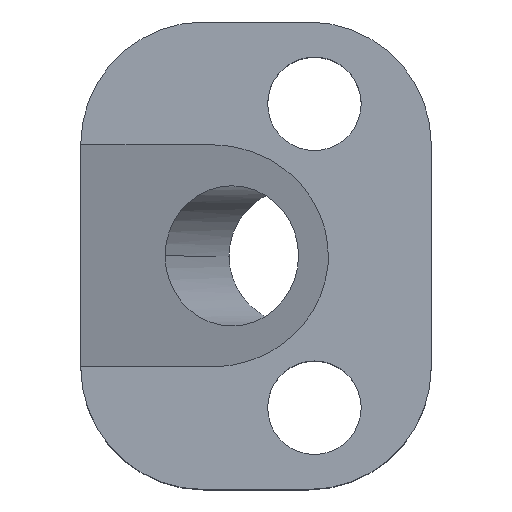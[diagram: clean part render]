
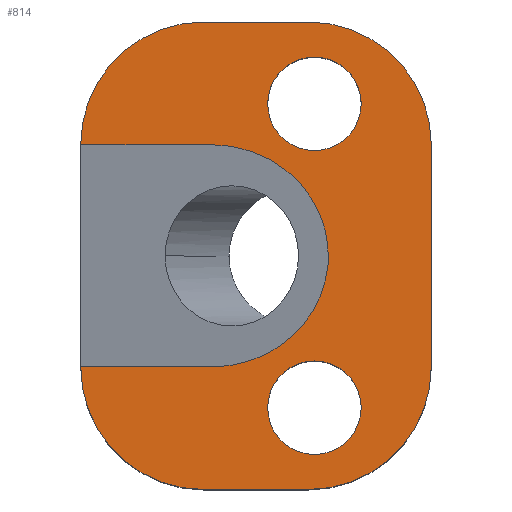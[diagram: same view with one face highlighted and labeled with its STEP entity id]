
A CAD part, top view. The second image highlights one B-rep face of the part: STEP entity #814.
In plain terms, the highlighted planar face has unit normal (0, 0, 1).
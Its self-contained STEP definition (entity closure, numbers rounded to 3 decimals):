
#7 = CIRCLE ( 'NONE', #209, 10.5 ) ;
#8 = DIRECTION ( 'NONE',  ( 1., 0., 0. ) ) ;
#13 = ORIENTED_EDGE ( 'NONE', *, *, #179, .T. ) ;
#18 = DIRECTION ( 'NONE',  ( 0., 0., 1. ) ) ;
#21 = DIRECTION ( 'NONE',  ( 1., 0., 0. ) ) ;
#48 = CIRCLE ( 'NONE', #536, 4. ) ;
#64 = CARTESIAN_POINT ( 'NONE',  ( 0.5, 9.5, 24. ) ) ;
#67 = CARTESIAN_POINT ( 'NONE',  ( 1., -13., 24. ) ) ;
#71 = CIRCLE ( 'NONE', #622, 4. ) ;
#77 = ORIENTED_EDGE ( 'NONE', *, *, #204, .F. ) ;
#79 = CARTESIAN_POINT ( 'NONE',  ( 0.5, 20., 24. ) ) ;
#83 = CARTESIAN_POINT ( 'NONE',  ( -7.798, -9.5, 24. ) ) ;
#88 = DIRECTION ( 'NONE',  ( 0., 0., -1. ) ) ;
#90 = FACE_OUTER_BOUND ( 'NONE', #566, .T. ) ;
#92 = ORIENTED_EDGE ( 'NONE', *, *, #923, .F. ) ;
#95 = CARTESIAN_POINT ( 'NONE',  ( -7.798, 9.5, 24. ) ) ;
#96 = VERTEX_POINT ( 'NONE', #452 ) ;
#111 = VERTEX_POINT ( 'NONE', #783 ) ;
#112 = EDGE_CURVE ( 'NONE', #96, #900, #595, .T. ) ;
#119 = ORIENTED_EDGE ( 'NONE', *, *, #677, .F. ) ;
#131 = CARTESIAN_POINT ( 'NONE',  ( 0.5, -20., 24. ) ) ;
#134 = CARTESIAN_POINT ( 'NONE',  ( -3., 13., 24. ) ) ;
#148 = EDGE_CURVE ( 'NONE', #900, #219, #765, .T. ) ;
#154 = CIRCLE ( 'NONE', #763, 10.5 ) ;
#155 = CARTESIAN_POINT ( 'NONE',  ( 12.18, -9.5, 24. ) ) ;
#173 = VERTEX_POINT ( 'NONE', #567 ) ;
#179 = EDGE_CURVE ( 'NONE', #219, #192, #902, .T. ) ;
#190 = EDGE_CURVE ( 'NONE', #316, #192, #154, .T. ) ;
#191 = CARTESIAN_POINT ( 'NONE',  ( -8.5, 9.5, 24. ) ) ;
#192 = VERTEX_POINT ( 'NONE', #711 ) ;
#195 = DIRECTION ( 'NONE',  ( 0., 0., -1. ) ) ;
#198 = DIRECTION ( 'NONE',  ( -1., 0., 0. ) ) ;
#202 = DIRECTION ( 'NONE',  ( 0., 0., 1. ) ) ;
#204 = EDGE_CURVE ( 'NONE', #510, #316, #924, .T. ) ;
#206 = CARTESIAN_POINT ( 'NONE',  ( 12.18, 9.5, 24. ) ) ;
#209 = AXIS2_PLACEMENT_3D ( 'NONE', #191, #195, #198 ) ;
#213 = DIRECTION ( 'NONE',  ( 0., 1., 0. ) ) ;
#219 = VERTEX_POINT ( 'NONE', #83 ) ;
#225 = CARTESIAN_POINT ( 'NONE',  ( 11., -9.5, 24. ) ) ;
#240 = EDGE_CURVE ( 'NONE', #913, #510, #885, .T. ) ;
#243 = ORIENTED_EDGE ( 'NONE', *, *, #502, .F. ) ;
#247 = ORIENTED_EDGE ( 'NONE', *, *, #360, .F. ) ;
#250 = DIRECTION ( 'NONE',  ( 1., 0., 0. ) ) ;
#267 = EDGE_CURVE ( 'NONE', #475, #913, #681, .T. ) ;
#282 = CARTESIAN_POINT ( 'NONE',  ( -7.798, 9.5, 24. ) ) ;
#286 = EDGE_CURVE ( 'NONE', #825, #475, #292, .T. ) ;
#292 = CIRCLE ( 'NONE', #653, 10.5 ) ;
#294 = FACE_BOUND ( 'NONE', #884, .T. ) ;
#298 = CARTESIAN_POINT ( 'NONE',  ( 1., -13., 24. ) ) ;
#304 = DIRECTION ( 'NONE',  ( 0., 0., 1. ) ) ;
#308 = DIRECTION ( 'NONE',  ( 1., 0., 0. ) ) ;
#315 = PLANE ( 'NONE',  #553 ) ;
#316 = VERTEX_POINT ( 'NONE', #813 ) ;
#330 = EDGE_CURVE ( 'NONE', #618, #825, #630, .T. ) ;
#332 = DIRECTION ( 'NONE',  ( 0., 0., 1. ) ) ;
#340 = CARTESIAN_POINT ( 'NONE',  ( -19., -20., 24. ) ) ;
#345 = EDGE_CURVE ( 'NONE', #111, #173, #71, .T. ) ;
#360 = EDGE_CURVE ( 'NONE', #801, #594, #451, .T. ) ;
#377 = DIRECTION ( 'NONE',  ( 1., 0., 0. ) ) ;
#418 = AXIS2_PLACEMENT_3D ( 'NONE', #673, #680, #831 ) ;
#420 = CARTESIAN_POINT ( 'NONE',  ( 0.5, -9.5, 24. ) ) ;
#425 = DIRECTION ( 'NONE',  ( 1., 0., 0. ) ) ;
#431 = ORIENTED_EDGE ( 'NONE', *, *, #148, .T. ) ;
#433 = CARTESIAN_POINT ( 'NONE',  ( -8.5, 20., 24. ) ) ;
#438 = CARTESIAN_POINT ( 'NONE',  ( -7.798, -9.5, 24. ) ) ;
#443 = DIRECTION ( 'NONE',  ( 0., 0., -1. ) ) ;
#451 = CIRCLE ( 'NONE', #574, 4. ) ;
#452 = CARTESIAN_POINT ( 'NONE',  ( -19., 9.5, 24. ) ) ;
#464 = ORIENTED_EDGE ( 'NONE', *, *, #286, .F. ) ;
#475 = VERTEX_POINT ( 'NONE', #904 ) ;
#502 = EDGE_CURVE ( 'NONE', #594, #801, #626, .T. ) ;
#510 = VERTEX_POINT ( 'NONE', #131 ) ;
#523 = ORIENTED_EDGE ( 'NONE', *, *, #267, .F. ) ;
#535 = CARTESIAN_POINT ( 'NONE',  ( 1., 13., 24. ) ) ;
#536 = AXIS2_PLACEMENT_3D ( 'NONE', #298, #304, #308 ) ;
#552 = CARTESIAN_POINT ( 'NONE',  ( -8.5, 20., 24. ) ) ;
#553 = AXIS2_PLACEMENT_3D ( 'NONE', #340, #18, #21 ) ;
#554 = VECTOR ( 'NONE', #893, 1000. ) ;
#566 = EDGE_LOOP ( 'NONE', ( #119, #785, #431, #13, #914, #77, #605, #523, #464, #712 ) ) ;
#567 = CARTESIAN_POINT ( 'NONE',  ( -3., -13., 24. ) ) ;
#570 = EDGE_LOOP ( 'NONE', ( #247, #243 ) ) ;
#573 = CARTESIAN_POINT ( 'NONE',  ( -19., 9.5, 24. ) ) ;
#574 = AXIS2_PLACEMENT_3D ( 'NONE', #535, #202, #377 ) ;
#594 = VERTEX_POINT ( 'NONE', #134 ) ;
#595 = LINE ( 'NONE', #573, #731 ) ;
#605 = ORIENTED_EDGE ( 'NONE', *, *, #240, .F. ) ;
#618 = VERTEX_POINT ( 'NONE', #552 ) ;
#622 = AXIS2_PLACEMENT_3D ( 'NONE', #67, #332, #250 ) ;
#626 = CIRCLE ( 'NONE', #418, 4. ) ;
#630 = LINE ( 'NONE', #433, #842 ) ;
#635 = ORIENTED_EDGE ( 'NONE', *, *, #345, .F. ) ;
#644 = DIRECTION ( 'NONE',  ( 1., 0., 0. ) ) ;
#651 = CARTESIAN_POINT ( 'NONE',  ( -19., -9.5, 24. ) ) ;
#653 = AXIS2_PLACEMENT_3D ( 'NONE', #64, #88, #213 ) ;
#654 = VECTOR ( 'NONE', #820, 1000. ) ;
#657 = FACE_BOUND ( 'NONE', #570, .T. ) ;
#658 = DIRECTION ( 'NONE',  ( -1., 0., 0. ) ) ;
#673 = CARTESIAN_POINT ( 'NONE',  ( 1., 13., 24. ) ) ;
#677 = EDGE_CURVE ( 'NONE', #96, #618, #7, .T. ) ;
#680 = DIRECTION ( 'NONE',  ( 0., 0., 1. ) ) ;
#681 = LINE ( 'NONE', #708, #654 ) ;
#702 = CARTESIAN_POINT ( 'NONE',  ( 5., 13., 24. ) ) ;
#703 = VECTOR ( 'NONE', #658, 1000. ) ;
#706 = AXIS2_PLACEMENT_3D ( 'NONE', #420, #443, #8 ) ;
#708 = CARTESIAN_POINT ( 'NONE',  ( 11., 9.5, 24. ) ) ;
#711 = CARTESIAN_POINT ( 'NONE',  ( -19., -9.5, 24. ) ) ;
#712 = ORIENTED_EDGE ( 'NONE', *, *, #330, .F. ) ;
#731 = VECTOR ( 'NONE', #644, 1000. ) ;
#763 = AXIS2_PLACEMENT_3D ( 'NONE', #790, #799, #806 ) ;
#765 =( BOUNDED_CURVE ( )  B_SPLINE_CURVE ( 3, ( #95, #206, #155, #438 ),
 .UNSPECIFIED., .F., .F. ) 
 B_SPLINE_CURVE_WITH_KNOTS ( ( 4, 4 ),
 ( 4.712, 7.854 ),
 .UNSPECIFIED. ) 
 CURVE ( )  GEOMETRIC_REPRESENTATION_ITEM ( )  RATIONAL_B_SPLINE_CURVE ( ( 1., 0.333, 0.333, 1. ) ) 
 REPRESENTATION_ITEM ( '' )  );
#783 = CARTESIAN_POINT ( 'NONE',  ( 5., -13., 24. ) ) ;
#785 = ORIENTED_EDGE ( 'NONE', *, *, #112, .T. ) ;
#790 = CARTESIAN_POINT ( 'NONE',  ( -8.5, -9.5, 24. ) ) ;
#799 = DIRECTION ( 'NONE',  ( 0., 0., -1. ) ) ;
#801 = VERTEX_POINT ( 'NONE', #702 ) ;
#806 = DIRECTION ( 'NONE',  ( 0., -1., 0. ) ) ;
#809 = CARTESIAN_POINT ( 'NONE',  ( 0.5, -20., 24. ) ) ;
#813 = CARTESIAN_POINT ( 'NONE',  ( -8.5, -20., 24. ) ) ;
#814 = ADVANCED_FACE ( 'NONE', ( #90, #294, #657 ), #315, .T. ) ;
#820 = DIRECTION ( 'NONE',  ( 0., -1., 0. ) ) ;
#825 = VERTEX_POINT ( 'NONE', #79 ) ;
#831 = DIRECTION ( 'NONE',  ( 1., 0., 0. ) ) ;
#842 = VECTOR ( 'NONE', #425, 1000. ) ;
#884 = EDGE_LOOP ( 'NONE', ( #635, #92 ) ) ;
#885 = CIRCLE ( 'NONE', #706, 10.5 ) ;
#893 = DIRECTION ( 'NONE',  ( -1., 0., 0. ) ) ;
#900 = VERTEX_POINT ( 'NONE', #282 ) ;
#902 = LINE ( 'NONE', #651, #703 ) ;
#904 = CARTESIAN_POINT ( 'NONE',  ( 11., 9.5, 24. ) ) ;
#913 = VERTEX_POINT ( 'NONE', #225 ) ;
#914 = ORIENTED_EDGE ( 'NONE', *, *, #190, .F. ) ;
#923 = EDGE_CURVE ( 'NONE', #173, #111, #48, .T. ) ;
#924 = LINE ( 'NONE', #809, #554 ) ;
